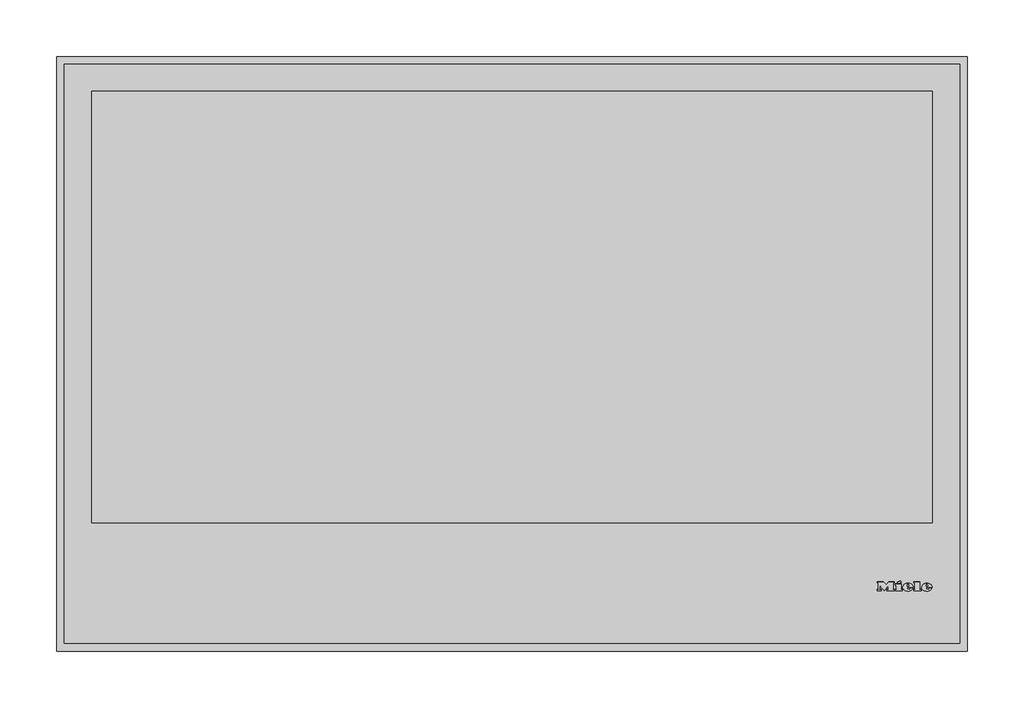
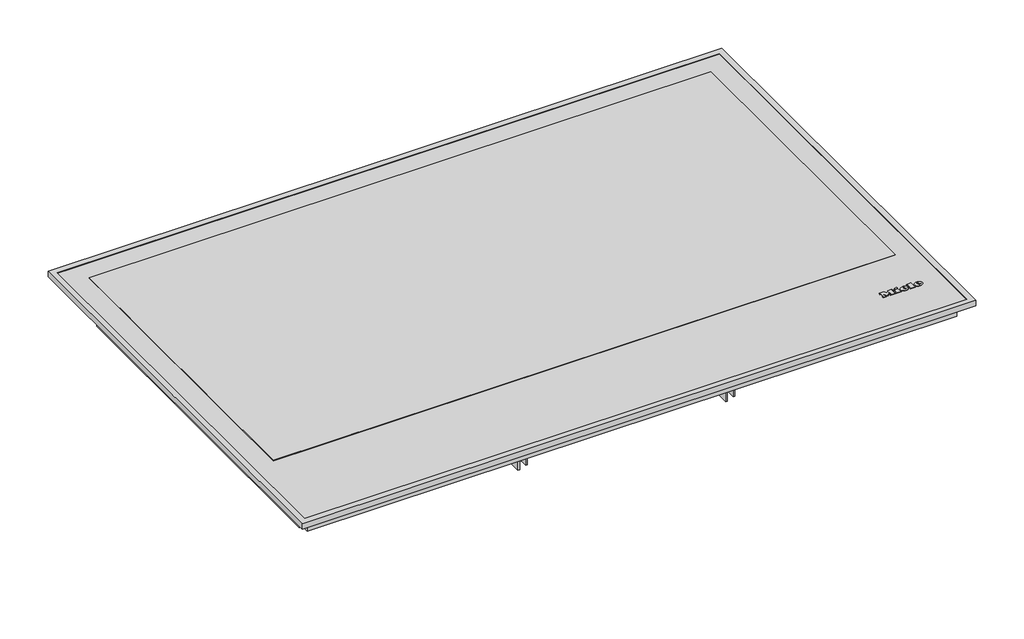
# Not in any storey: 1 proxy.
"""IFC4 building model written with IfcOpenShell, lengths in millimetres."""

from ifc_helpers import new_model, si_unit, origin, place, context, project, spatial, transform, mapped, element, save
from components import specialty_equipment_bfc486c6

model = new_model("IFC4")

# Units and contexts
model_context = context("Model", 3, world=origin())
ifc_project = project(units=[si_unit("LENGTHUNIT", "METRE", prefix="MILLI")], contexts=[model_context])

# Site, building
site = spatial("IfcSite", under=ifc_project)
building = spatial("IfcBuilding", under=site)

# Proxy
placement = place(None, origin())
specialty_equipment_shape = specialty_equipment_bfc486c6(model_context)
element("IfcBuildingElementProxy", 1, Name="11144400_NER_KM7678FR : 26767800_NER_11144400_KM7678FR", ObjectType="11144400_NER_KM7678FR : 26767800_NER_11144400_KM7678FR", at=placement, inside=building, context=model_context, shape_type="MappedRepresentation", body=[
    mapped(specialty_equipment_shape, transform((0.0, 0.0, 0.0), x_axis=(1.0, 0.0, 0.0), y_axis=(0.0, 1.0, 0.0), z_axis=(0.0, 0.0, 1.0))),
])

save(model, "model.ifc")
